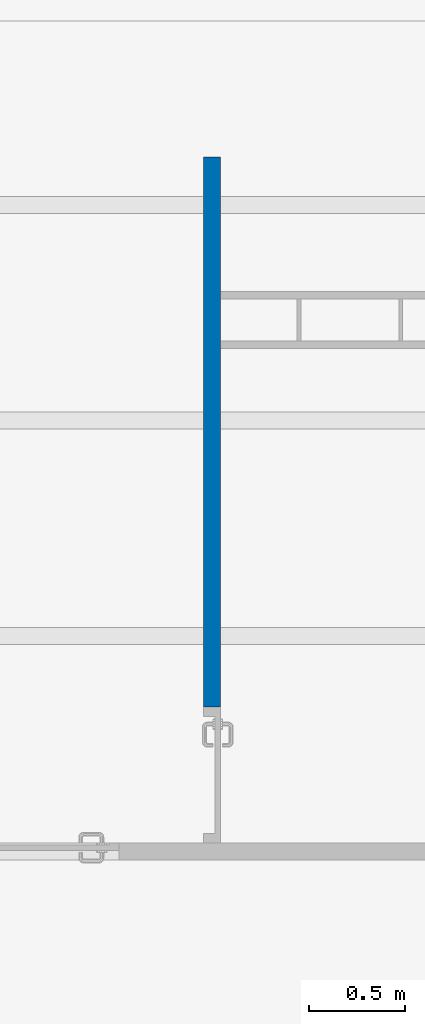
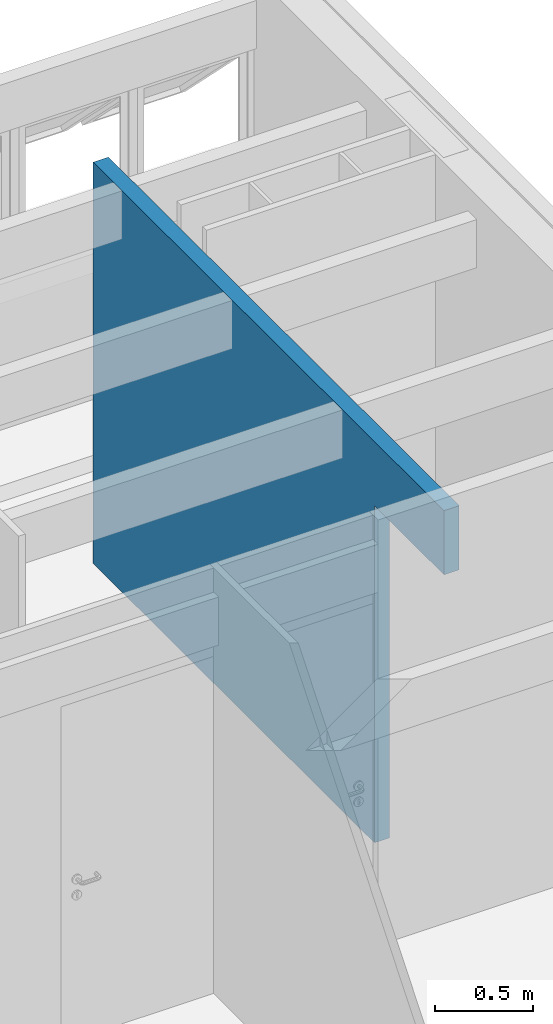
# One storey, part 25 of 40: 1 wall, 1 opening.
"""IFC4 building model written with IfcOpenShell, lengths in millimetres."""

from ifc_helpers import new_model, entity, si_unit, converted_unit, derived_unit, direction, frame, origin_with_axes, origin_2d_with_axis, place, context, subcontext, project, spatial, line, indexed_curve, rectangle, outline, extrude, material, layer, layer_set, layer_usage, type_object, element, save


model = new_model("IFC4")

# Units and contexts
model_context = context("Model", 3, precision=0.01, world=origin_with_axes(), true_north=direction((0.0, 1.0)))
body_context = subcontext(model_context, "Body", "Model", "MODEL_VIEW")
ifc_project = project(units=[si_unit("LENGTHUNIT", "METRE", prefix="MILLI"), si_unit("AREAUNIT", "SQUARE_METRE"), si_unit("VOLUMEUNIT", "CUBIC_METRE"), converted_unit("PLANEANGLEUNIT", "DEGREE", entity("IfcPlaneAngleMeasure", 0.0174532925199), si_unit("PLANEANGLEUNIT", "RADIAN"), dimensions=[0, 0, 0, 0, 0, 0, 0]), converted_unit("TIMEUNIT", "Year", entity("IfcTimeMeasure", 31556926.0), si_unit("TIMEUNIT", "SECOND"), dimensions=[0, 0, 1, 0, 0, 0, 0]), si_unit("MASSUNIT", "GRAM", prefix="KILO"), si_unit("THERMODYNAMICTEMPERATUREUNIT", "DEGREE_CELSIUS"), si_unit("LUMINOUSINTENSITYUNIT", "LUMEN"), si_unit("ENERGYUNIT", "JOULE", prefix="MEGA"), derived_unit("THERMALCONDUCTANCEUNIT", [(si_unit("POWERUNIT", "WATT"), 1), (si_unit("LENGTHUNIT", "METRE"), -1), (si_unit("THERMODYNAMICTEMPERATUREUNIT", "KELVIN"), -1)]), derived_unit("SPECIFICHEATCAPACITYUNIT", [(si_unit("ENERGYUNIT", "JOULE"), 1), (si_unit("MASSUNIT", "GRAM", prefix="KILO"), -1), (si_unit("THERMODYNAMICTEMPERATUREUNIT", "KELVIN"), -1)]), derived_unit("MASSDENSITYUNIT", [(si_unit("MASSUNIT", "GRAM", prefix="KILO"), 1), (si_unit("VOLUMEUNIT", "CUBIC_METRE"), -1)])], contexts=[model_context])

# Site, building, storey
site_placement = place(None, origin_with_axes())
site = spatial("IfcSite", under=ifc_project, at=site_placement, Name="Local", CompositionType="ELEMENT")
building_placement = place(site_placement, origin_with_axes())
building = spatial("IfcBuilding", under=site, at=building_placement, Name="Construção", CompositionType="ELEMENT")
storey_placement = place(building_placement, origin_with_axes())
storey = spatial("IfcBuildingStorey", under=building, at=storey_placement, Name="Primeiro Pavimento", CompositionType="ELEMENT", Elevation=0.0)

# Wall, opening
ifc_material = material(Name="GENÉRICO - VEDAÇÃO EXTERNA")
ifc_layer = layer(ifc_material, 90.0, ventilated="UNKNOWN", Name="GENÉRICO - VEDAÇÃO EXTERNA")
ifc_layer_set = layer_set([ifc_layer], Name="GENÉRICO - VEDAÇÃO EXTERNA 90")
ifc_layer_usage = layer_usage(ifc_layer_set, "AXIS2", "POSITIVE", 0.0)
wall_type = type_object("IfcWallType", Name="GENÉRICO - VEDAÇÃO EXTERNA 90", PredefinedType="NOTDEFINED")
wall_placement = place(storey_placement, frame((13040.0, 7345.2195667, 0.0), z_axis=(0.0, 0.0, 1.0), x_axis=(0.0, -1.0, 0.0)))
wall = element("IfcWall", 1, at=wall_placement, inside=storey, type_object=wall_type, material=ifc_layer_usage, Name="APTO2-PAREDE-012", PredefinedType="NOTDEFINED", context=body_context, shape_type="SweptSolid", body=[
    extrude(outline(indexed_curve([(0.0, 0.0), (3580.0, 0.0), (3580.0, 90.0), (0.0, 90.0)], segments=[line(1, 2, 3, 4, 1)])), origin_with_axes(), (0.0, 0.0, 1.0), 2500.0),
])
opening_placement = place(wall_placement, frame((3225.0, 0.0, 0.0), z_axis=(0.0, 0.0, 1.0), x_axis=(1.0, 0.0, 0.0)))
element("IfcOpeningElement", 2, at=opening_placement, cuts=wall, Name="APTO2-PORTA-003", context=body_context, shape_type="SweptSolid", body=[
    extrude(rectangle(XDim=710.0, YDim=2100.0, at=origin_2d_with_axis()), frame((0.0, 90.0, 1050.0), z_axis=(0.0, -1.0, 0.0), x_axis=(1.0, 0.0, 0.0)), (0.0, 0.0, 1.0), 270.0),
])

save(model, "model.ifc")
